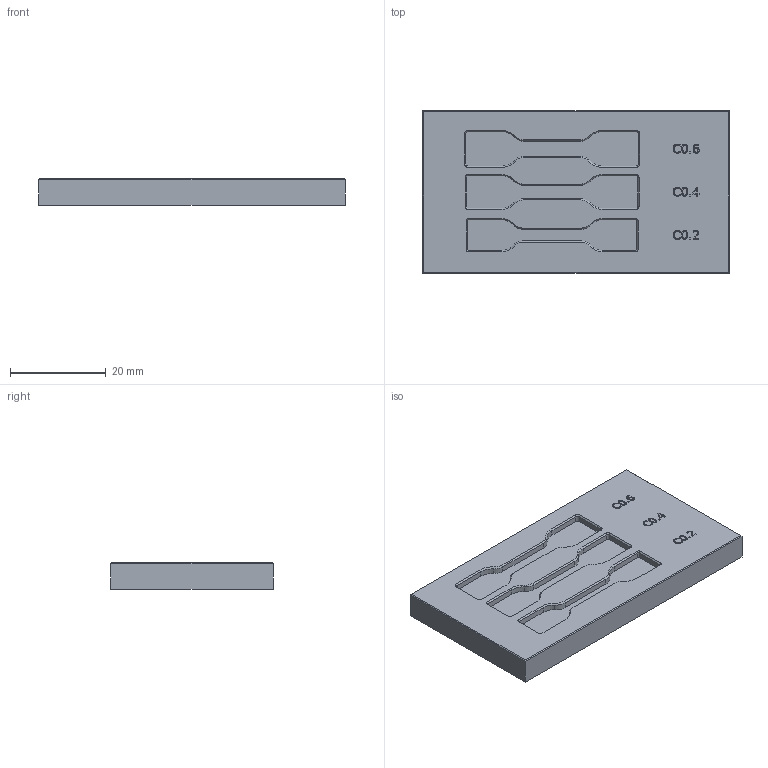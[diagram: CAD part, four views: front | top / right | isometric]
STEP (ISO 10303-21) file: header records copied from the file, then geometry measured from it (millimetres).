
FILE_DESCRIPTION(('Open CASCADE Model'),'2;1');
FILE_NAME('Open CASCADE Shape Model','2026-10-31T05:48:34',('Author'),( 'Open CASCADE'),'Open CASCADE STEP processor 7.8','Open CASCADE 7.8' ,'Unknown');
FILE_SCHEMA(('AUTOMOTIVE_DESIGN { 1 0 10303 214 1 1 1 1 }'));
Length unit declared in the file: millimetre
Products named in the file (1): Open CASCADE STEP translator 7.8 5
Bounding box: 64 x 34 x 5.5 mm (x, y, z)
Volume: 11149.8 mm3; surface area: 5780.7 mm2
Topology: 1 solids, 1 shells, 348 faces, 902 edges, 576 vertices
Faces by surface type: extrusion 136, plane 116, cone 48, cylinder 48
Entity records: 24603 total; most frequent: CARTESIAN_POINT 8144, DIRECTION 2392, ORIENTED_EDGE 1804, PCURVE 1804, DEFINITIONAL_REPRESENTATION 1804, VECTOR 1630, LINE 1494, B_SPLINE_CURVE_WITH_KNOTS 1108
